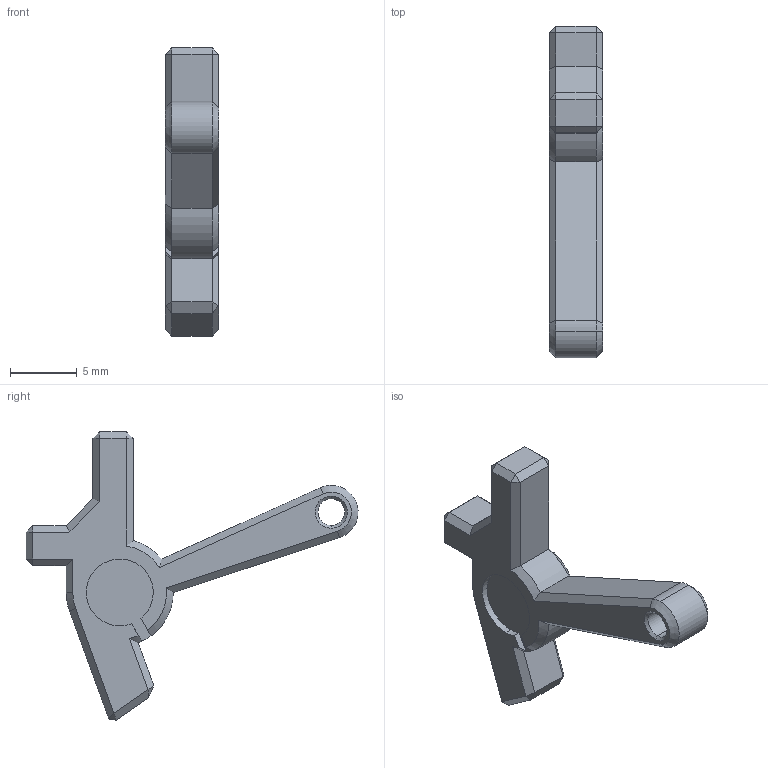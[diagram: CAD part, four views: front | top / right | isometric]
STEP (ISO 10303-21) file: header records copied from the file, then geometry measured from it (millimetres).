
FILE_DESCRIPTION (( 'STEP AP203' ), '1' );
FILE_NAME ('neck.step', '2023-08-15T08:05:34', ( '' ), ( '' ), 'SwSTEP 2.0', 'SolidWorks 2020', '' );
FILE_SCHEMA (( 'CONFIG_CONTROL_DESIGN' ));
Length unit declared in the file: millimetre
Products named in the file (1): neck
Bounding box: 4 x 24.79 x 21.54 mm (x, y, z)
Volume: 588 mm3; surface area: 651.9 mm2
Topology: 1 solids, 1 shells, 93 faces, 206 edges, 115 vertices
Faces by surface type: plane 65, cone 15, cylinder 13
Entity records: 2562 total; most frequent: CARTESIAN_POINT 451, DIRECTION 427, ORIENTED_EDGE 412, EDGE_CURVE 206, VECTOR 149, LINE 149, AXIS2_PLACEMENT_3D 139, VERTEX_POINT 115
